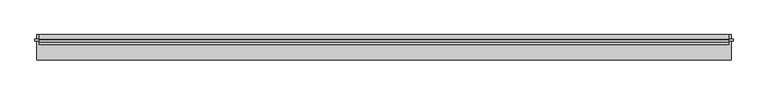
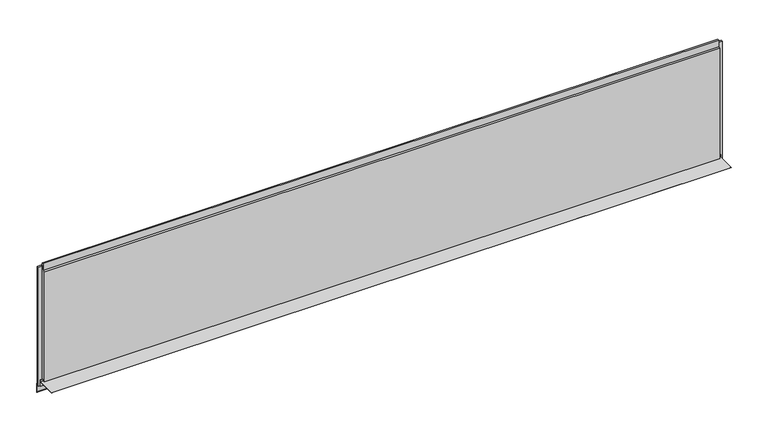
"""IFC4 building model written with IfcOpenShell, lengths in millimetres: plate geometry, Trimo_Qbiss Screen_Normal Panel-HORIZONTAL : HR - B."""

from ifc_helpers import new_model, si_unit, frame, origin, place, context, project, spatial, polyline, outline, extrude, source, transform, mapped, element, save


def plate_5e821559(model_context):
    return source(origin(), model_context, "Body", "SweptSolid", [
        extrude(outline(polyline([(66.7, 14.0835797), (67.5, 14.0835797), (67.5, -23.0), (100.0, -25.8433816), (100.0, -76.0), (87.1509533, -63.1509533), (87.7166388, -62.5852679), (99.2, -74.0686292), (99.2, -26.5764465), (66.7, -23.7330649), (66.7, 1.0), (-32.5, 1.0), (-32.5, 1.8), (66.7, 1.8), (66.7, 14.0835797)])), frame((-1806.9329565, 0.0, 0.0), z_axis=(1.0, 0.0, 0.0), x_axis=(0.0, 1.0, 0.0)), (0.0, 0.0, 1.0), 3613.8659129),
        extrude(outline(polyline([(-1797.4329565, 76.5978162), (-1797.4329565, 67.8978162), (-1816.4329565, 67.8978162), (-1816.4329565, 76.5978162), (-1797.4329565, 76.5978162)])), frame((0.0, 0.0, -20.0), z_axis=(0.0, 0.0, 1.0), x_axis=(1.0, 0.0, 0.0)), (0.0, 0.0, 1.0), 669.0),
        extrude(outline(polyline([(1797.4329565, 67.8978162), (1797.4329565, 76.5978162), (1816.4329565, 76.5978162), (1816.4329565, 67.8978162), (1797.4329565, 67.8978162)])), frame((0.0, 0.0, -20.0), z_axis=(0.0, 0.0, 1.0), x_axis=(1.0, 0.0, 0.0)), (0.0, 0.0, 1.0), 669.0),
        extrude(outline(polyline([(1794.4329565, 76.0), (1794.4329565, 71.0), (-1794.4329565, 71.0), (-1794.4329565, 76.0), (1794.4329565, 76.0)])), frame((0.0, 0.0, 628.0), z_axis=(0.0, 0.0, 1.0), x_axis=(1.0, 0.0, 0.0)), (0.0, 0.0, 1.0), 21.0),
        extrude(outline(polyline([(71.0, 627.0), (100.0, 627.0), (100.0, 0.0), (72.0, 0.0), (72.0, 15.5), (62.0, 15.5), (62.0, 7.0), (50.0, 7.0), (50.0, 627.0), (63.0, 627.0), (63.0, 664.5), (71.0, 664.5), (71.0, 627.0)])), frame((-1794.4329565, 0.0, 0.0), z_axis=(1.0, 0.0, 0.0), x_axis=(0.0, 1.0, 0.0)), (0.0, 0.0, 1.0), 3588.8659129),
    ])


if __name__ == "__main__":
    model = new_model("IFC4")
    model_context = context("Model", 3, world=origin())
    ifc_project = project(units=[si_unit("LENGTHUNIT", "METRE", prefix="MILLI")], contexts=[model_context])
    site = spatial("IfcSite", under=ifc_project)
    building = spatial("IfcBuilding", under=site)
    placement = place(None, origin())
    plate_shape = plate_5e821559(model_context)
    element("IfcPlate", 1, ObjectType="Trimo_Qbiss Screen_Normal Panel-HORIZONTAL : HR - B", at=placement, inside=building, context=model_context, shape_type="MappedRepresentation", body=[
        mapped(plate_shape, transform((0.0, 0.0, 0.0), x_axis=(1.0, 0.0, 0.0), y_axis=(0.0, 1.0, 0.0), z_axis=(0.0, 0.0, 1.0))),
    ])
    save(model, "model.ifc")
